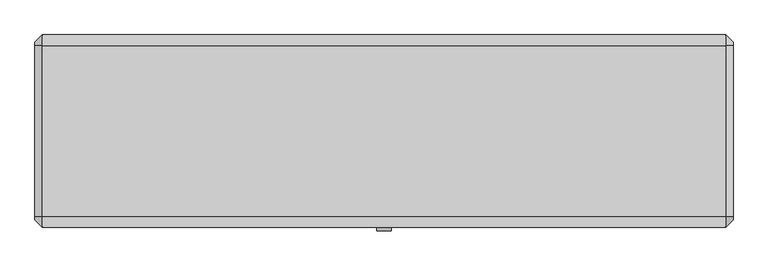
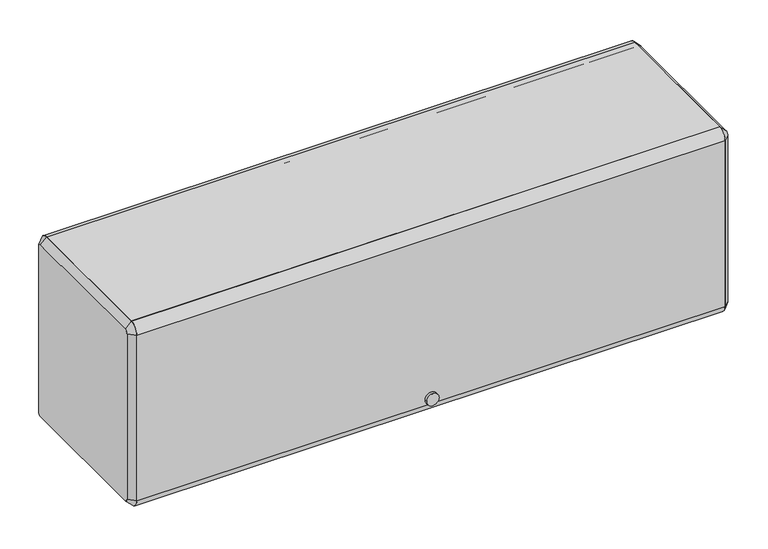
"""IFC4 building model written with IfcOpenShell, lengths in millimetres: furniture geometry."""

from ifc_helpers import new_model, si_unit, point, frame, frame_2d, origin, place, context, project, spatial, polyline, circle_curve, trimmed, segment, composite_curve, outline, extrude, source, transform, mapped, element, save
from ifc_brep_helpers import plane_surface, revolved_surface, advanced_brep


def furniture_1f279dc2(model_context):
    return source(origin(), model_context, "Body", "SolidModel", [
        extrude(outline(composite_curve([segment(polyline([(-136.525, 1689.1), (-136.525, 1701.8), (161.925, 1701.8)]), True, "CONTINUOUS"), segment(trimmed(circle_curve(frame_2d((161.925, 1682.75)), 19.05), [point((161.925, 1701.8))], [point((180.975, 1682.75))], False, "CARTESIAN"), True, "CONTINUOUS"), segment(polyline([(180.975, 1682.75), (168.275, 1682.75)]), True, "CONTINUOUS"), segment(trimmed(circle_curve(frame_2d((161.925, 1682.75)), 6.35), [point((168.275, 1682.75))], [point((161.925, 1689.1))], True, "CARTESIAN"), True, "CONTINUOUS"), segment(polyline([(161.925, 1689.1), (-136.525, 1689.1)]), True, "CONTINUOUS")], self_intersect=False)), frame((-596.9, 0.0, 0.0), z_axis=(1.0, 0.0, 0.0), x_axis=(0.0, 1.0, 0.0)), (0.0, 0.0, 1.0), 1193.8),
        extrude(outline(composite_curve([segment(trimmed(circle_curve(frame_2d((-136.525, 1682.75)), 19.05), [point((-155.575, 1682.75))], [point((-136.525, 1701.8))], False, "CARTESIAN"), True, "CONTINUOUS"), segment(polyline([(-136.525, 1701.8), (-136.525, 1689.1)]), True, "CONTINUOUS"), segment(trimmed(circle_curve(frame_2d((-136.525, 1682.75)), 6.35), [point((-136.525, 1689.1))], [point((-142.875, 1682.75))], True, "CARTESIAN"), True, "CONTINUOUS"), segment(polyline([(-142.875, 1682.75), (-142.875, 1327.15)]), True, "CONTINUOUS"), segment(trimmed(circle_curve(frame_2d((-136.525, 1327.15)), 6.35), [point((-142.875, 1327.15))], [point((-136.525, 1320.8))], True, "CARTESIAN"), True, "CONTINUOUS"), segment(polyline([(-136.525, 1320.8), (-136.525, 1308.1)]), True, "CONTINUOUS"), segment(trimmed(circle_curve(frame_2d((-136.525, 1327.15)), 19.05), [point((-136.525, 1308.1))], [point((-155.575, 1327.15))], False, "CARTESIAN"), True, "CONTINUOUS"), segment(polyline([(-155.575, 1327.15), (-155.575, 1682.75)]), True, "CONTINUOUS")], self_intersect=False)), frame((-596.9, 0.0, 0.0), z_axis=(1.0, 0.0, 0.0), x_axis=(0.0, 1.0, 0.0)), (0.0, 0.0, 1.0), 1193.8),
        extrude(outline(composite_curve([segment(trimmed(circle_curve(frame_2d((1339.8118906, 0.0201199)), 12.7253951), [point((1339.8118906, 12.745515))], [point((1339.8118906, -12.7052752))], False, "CARTESIAN"), True, "CONTINUOUS"), segment(trimmed(circle_curve(frame_2d((1339.8118906, 0.0201199)), 12.7253951), [point((1339.8118906, -12.7052752))], [point((1339.8118906, 12.745515))], False, "CARTESIAN"), True, "CONTINUOUS")], self_intersect=False)), frame((0.0, -161.925, 0.0), z_axis=(0.0, 1.0, 0.0), x_axis=(0.0, 0.0, 1.0)), (0.0, 0.0, 1.0), 6.35),
        extrude(outline(polyline([(-136.525, 1346.2), (161.925, 1346.2), (161.925, 1384.3), (174.625, 1384.3), (174.625, 1381.125), (165.1, 1381.125), (165.1, 1343.025), (-133.35, 1343.025), (-133.35, 1323.975), (-136.525, 1323.975), (-136.525, 1346.2)])), frame((-596.9, 0.0, 0.0), z_axis=(1.0, 0.0, 0.0), x_axis=(0.0, 1.0, 0.0)), (0.0, 0.0, 1.0), 1193.8),
        advanced_brep(
        [(609.6, 161.925, 1689.1), (609.6, -136.525, 1689.1), (609.6, -142.875, 1682.75), (609.6, -142.875, 1327.15), (609.6, -136.525, 1320.8), (609.6, 161.925, 1320.8), (609.6, 168.275, 1327.15), (609.6, 168.275, 1682.75), (596.9, 161.925, 1701.8), (596.9, 180.975, 1682.75), (596.9, 180.975, 1327.15), (596.9, 161.925, 1308.1), (596.9, -136.525, 1308.1), (596.9, -155.575, 1327.15), (596.9, -155.575, 1682.75), (596.9, -136.525, 1701.8)],
        [
            (0, 1),
            (1, 2, circle_curve(frame((609.6, -136.525, 1682.75), z_axis=(1.0, 6.493472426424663e-12, -6.5867311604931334e-12), x_axis=(6.586694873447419e-12, 0.0, 1.0)), 6.35)),
            (2, 3),
            (3, 4, circle_curve(frame((609.6, -136.525, 1327.15), z_axis=(1.0, 3.375966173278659e-12, 3.3892888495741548e-12), x_axis=(3.37601280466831e-12, -1.0, 0.0)), 6.35)),
            (4, 5),
            (5, 6, circle_curve(frame((609.6, 161.925, 1327.15), z_axis=(1.0, 3.378630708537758e-12, -3.3892888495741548e-12), x_axis=(-3.3893585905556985e-12, 0.0, -1.0)), 6.35)),
            (6, 7),
            (7, 0, circle_curve(frame((609.6, 161.925, 1682.75), z_axis=(1.0, 6.4828142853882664e-12, 6.394884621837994e-12), x_axis=(-6.482754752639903e-12, 1.0, 0.0)), 6.35)),
            (8, 9, circle_curve(frame((596.9, 161.925, 1682.75), z_axis=(-1.0, -6.4828142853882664e-12, -6.394884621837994e-12), x_axis=(-6.482754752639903e-12, 1.0, 0.0)), 19.05)),
            (9, 10),
            (10, 11, circle_curve(frame((596.9, 161.925, 1327.15), z_axis=(-1.0, -3.378630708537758e-12, 3.3892888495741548e-12), x_axis=(-3.3893585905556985e-12, 0.0, -1.0)), 19.05)),
            (11, 12),
            (12, 13, circle_curve(frame((596.9, -136.525, 1327.15), z_axis=(-1.0, -3.375966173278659e-12, -3.3892888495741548e-12), x_axis=(3.37601280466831e-12, -1.0, 0.0)), 19.05)),
            (13, 14),
            (14, 15, circle_curve(frame((596.9, -136.525, 1682.75), z_axis=(-1.0, -6.493472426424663e-12, 6.5867311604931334e-12), x_axis=(6.586694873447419e-12, 0.0, 1.0)), 19.05)),
            (15, 8),
            (15, 1),
            (0, 8),
            (14, 2),
            (13, 3),
            (12, 4),
            (11, 5),
            (10, 6),
            (9, 7),
        ],
        [
            plane_surface(frame((609.6, 12.7, 1504.95), z_axis=(1.0, 0.0, 0.0), x_axis=(0.0, -1.0, 0.0))),
            plane_surface(frame((596.9, 12.7, 1504.95), z_axis=(-1.0, 0.0, 0.0), x_axis=(0.0, -1.0, 0.0))),
            plane_surface(frame((596.9, 12.7, 1701.8), z_axis=(0.7071067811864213, 0.0, 0.7071067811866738), x_axis=(0.0, -1.0, 0.0))),
            revolved_surface(polyline([(609.6000000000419, -136.525, 1689.099999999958), (596.9, -136.525, 1701.8)]), (615.95, -136.525, 1682.75), (-1.0, -6.493472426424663e-12, 6.5867311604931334e-12)),
            plane_surface(frame((596.9, -155.575, 1504.95), z_axis=(0.7071067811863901, -0.7071067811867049, 0.0), x_axis=(0.0, 0.0, -1.0))),
            revolved_surface(polyline([(609.6000000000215, -142.87499999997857, 1327.15), (596.8999999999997, -155.57500000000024, 1327.15)]), (615.95, -136.525, 1327.15), (-1.0, -3.375966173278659e-12, -3.3892888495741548e-12)),
            plane_surface(frame((596.9, 12.7, 1308.1), z_axis=(0.7071067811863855, 0.0, -0.7071067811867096), x_axis=(0.0, 1.0, 0.0))),
            revolved_surface(polyline([(609.6, 161.925, 1320.8), (596.8999999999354, 161.925, 1308.0999999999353)]), (615.95, 161.925, 1327.15), (-1.0, -3.378630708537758e-12, 3.3892888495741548e-12)),
            plane_surface(frame((596.9, 180.975, 1504.95), z_axis=(0.7071067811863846, 0.7071067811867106, 0.0), x_axis=(0.0, 0.0, 1.0))),
            revolved_surface(polyline([(609.6, 168.275, 1682.75), (596.8999999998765, 180.9750000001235, 1682.75)]), (615.95, 161.925, 1682.75), (-1.0, -6.4828142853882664e-12, -6.394884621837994e-12)),
        ],
        [
            (0, [[1, 2, 3, 4, 5, 6, 7, 8]]),
            (1, [[9, 10, 11, 12, 13, 14, 15, 16]]),
            (2, [[-16, 17, -1, 18]]),
            (3, [[-15, 19, -2, -17]]),
            (4, [[-14, 20, -3, -19]]),
            (5, [[-13, 21, -4, -20]]),
            (6, [[-12, 22, -5, -21]]),
            (7, [[-11, 23, -6, -22]]),
            (8, [[-10, 24, -7, -23]]),
            (9, [[-9, -18, -8, -24]]),
        ],
    ),
        advanced_brep(
        [(-609.6, -136.525, 1689.1), (-609.6, 161.925, 1689.1), (-609.6, 168.275, 1682.75), (-609.6, 168.275, 1327.15), (-609.6, 161.925, 1320.8), (-609.6, -136.525, 1320.8), (-609.6, -142.875, 1327.15), (-609.6, -142.875, 1682.75), (-596.9, -136.525, 1701.8), (-596.9, -155.575, 1682.75), (-596.9, -155.575, 1327.15), (-596.9, -136.525, 1308.1), (-596.9, 161.925, 1308.1), (-596.9, 180.975, 1327.15), (-596.9, 180.975, 1682.75), (-596.9, 161.925, 1701.8)],
        [
            (0, 1),
            (1, 2, circle_curve(frame((-609.6, 161.925, 1682.75), z_axis=(-1.0, 3.365308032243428e-12, 3.453237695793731e-12), x_axis=(3.4532613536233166e-12, 0.0, 1.0)), 6.35)),
            (2, 3),
            (3, 4, circle_curve(frame((-609.6, 161.925, 1327.15), z_axis=(-1.0, 0.0, 0.0), x_axis=(0.0, 1.0, 0.0)), 6.35)),
            (4, 5),
            (5, 6, circle_curve(frame((-609.6, -136.525, 1327.15), z_axis=(-1.0, 0.0, 0.0), x_axis=(0.0, 0.0, -1.0)), 6.35)),
            (6, 7),
            (7, 0, circle_curve(frame((-609.6, -136.525, 1682.75), z_axis=(-1.0, 3.381295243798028e-12, -3.3040237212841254e-12), x_axis=(-3.3813511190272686e-12, -1.0, 0.0)), 6.35)),
            (8, 9, circle_curve(frame((-596.9, -136.525, 1682.75), z_axis=(1.0, -3.381295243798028e-12, 3.3040237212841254e-12), x_axis=(-3.3813511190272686e-12, -1.0, 0.0)), 19.05)),
            (9, 10),
            (10, 11, circle_curve(frame((-596.9, -136.525, 1327.15), z_axis=(1.0, 0.0, 0.0), x_axis=(0.0, 0.0, -1.0)), 19.05)),
            (11, 12),
            (12, 13, circle_curve(frame((-596.9, 161.925, 1327.15), z_axis=(1.0, 0.0, 0.0), x_axis=(0.0, 1.0, 0.0)), 19.05)),
            (13, 14),
            (14, 15, circle_curve(frame((-596.9, 161.925, 1682.75), z_axis=(1.0, -3.365308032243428e-12, -3.453237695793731e-12), x_axis=(3.4532613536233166e-12, 0.0, 1.0)), 19.05)),
            (15, 8),
            (15, 1),
            (0, 8),
            (14, 2),
            (13, 3),
            (12, 4),
            (11, 5),
            (10, 6),
            (9, 7),
        ],
        [
            plane_surface(frame((-609.6, 12.7, 1504.95), z_axis=(-1.0, 0.0, 0.0), x_axis=(0.0, -1.0, 0.0))),
            plane_surface(frame((-596.9, 12.7, 1504.95), z_axis=(1.0, 0.0, 0.0), x_axis=(0.0, -1.0, 0.0))),
            plane_surface(frame((-596.9, 12.7, 1701.8), z_axis=(-0.7071067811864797, 0.0, 0.7071067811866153), x_axis=(0.0, 1.0, 0.0))),
            revolved_surface(polyline([(-609.6, 161.925, 1689.1), (-596.8999999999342, 161.925, 1701.8000000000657)]), (-615.95, 161.925, 1682.75), (1.0, -3.365308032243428e-12, -3.453237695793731e-12)),
            plane_surface(frame((-596.9, 180.975, 1504.95), z_axis=(-0.7071067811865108, 0.7071067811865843, 0.0), x_axis=(0.0, 0.0, -1.0))),
            revolved_surface(polyline([(-609.6, 168.275, 1327.15), (-596.9, 180.975, 1327.15)]), (-615.95, 161.925, 1327.15), (1.0, 0.0, 0.0)),
            plane_surface(frame((-596.9, 12.7, 1308.1), z_axis=(-0.7071067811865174, 0.0, -0.7071067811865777), x_axis=(0.0, -1.0, 0.0))),
            revolved_surface(polyline([(-609.6, -136.525, 1320.8), (-596.9, -136.525, 1308.1)]), (-615.95, -136.525, 1327.15), (1.0, 0.0, 0.0)),
            plane_surface(frame((-596.9, -155.575, 1504.95), z_axis=(-0.7071067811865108, -0.7071067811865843, 0.0), x_axis=(0.0, 0.0, 1.0))),
            revolved_surface(polyline([(-609.6000000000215, -142.87499999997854, 1682.75), (-596.9, -155.575, 1682.75)]), (-615.95, -136.525, 1682.75), (1.0, -3.381295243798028e-12, 3.3040237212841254e-12)),
        ],
        [
            (0, [[1, 2, 3, 4, 5, 6, 7, 8]]),
            (1, [[9, 10, 11, 12, 13, 14, 15, 16]]),
            (2, [[-16, 17, -1, 18]]),
            (3, [[-15, 19, -2, -17]]),
            (4, [[-14, 20, -3, -19]]),
            (5, [[-13, 21, -4, -20]]),
            (6, [[-12, 22, -5, -21]]),
            (7, [[-11, 23, -6, -22]]),
            (8, [[-10, 24, -7, -23]]),
            (9, [[-9, -18, -8, -24]]),
        ],
    ),
    ])


if __name__ == "__main__":
    model = new_model("IFC4")
    model_context = context("Model", 3, world=origin())
    ifc_project = project(units=[si_unit("LENGTHUNIT", "METRE", prefix="MILLI")], contexts=[model_context])
    site = spatial("IfcSite", under=ifc_project)
    building = spatial("IfcBuilding", under=site)
    placement = place(None, origin())
    furniture_shape = furniture_1f279dc2(model_context)
    element("IfcFurniture", 1, ObjectType="HermanMiller_ActionOffice_A3352_B-StyleFlipperDoorUnit : 15 1/2\"H x 13\"D x 48\"W", at=placement, inside=building, context=model_context, shape_type="MappedRepresentation", body=[
        mapped(furniture_shape, transform((0.0, 0.0, 0.0), x_axis=(1.0, 0.0, 0.0), y_axis=(0.0, 1.0, 0.0), z_axis=(0.0, 0.0, 1.0))),
    ])
    save(model, "model.ifc")
